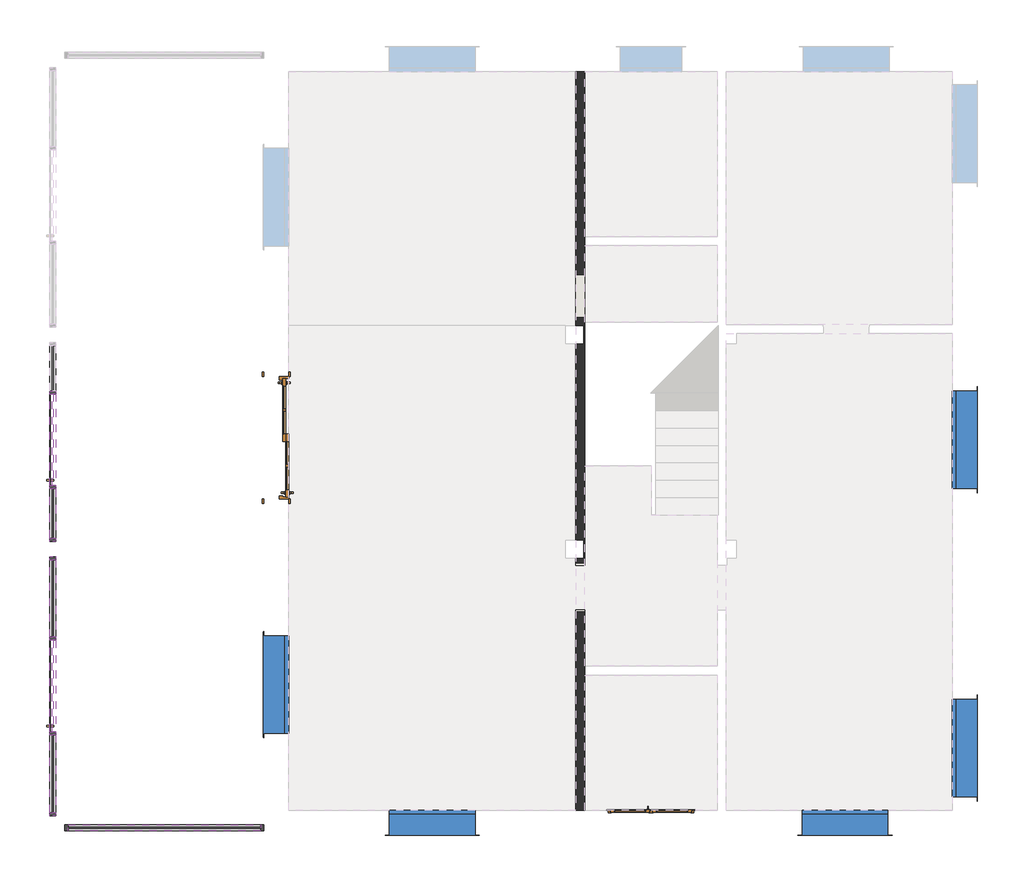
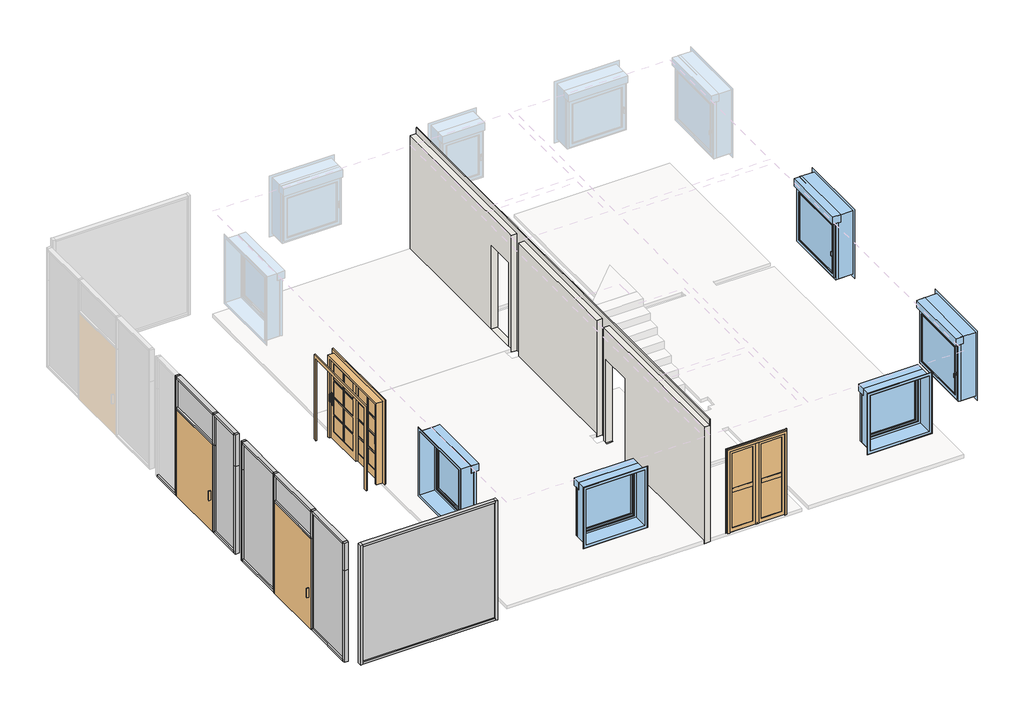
# One storey, part 1 of 2: 29 members, 6 plates, 5 windows, 4 doors, 1 wall.
"""IFC4 building model written with IfcOpenShell, lengths in millimetres."""

from ifc_helpers import new_model, si_unit, origin, place, context, project, spatial, faceted_brep, transform, mapped, element, save
from components import door_a9439ebe, door_1400_x_2100mm_e34f5f79, puerta_de_cristal_abatible_en_muro_cortina_puerta_de_cristal_e47abdd4, puerta_de_cristal_abatible_en_muro_cortina_puerta_de_cristal_2f4fb634, montante_rectangular_montante_rectangular_5_x_10_cm_757a3403, montante_rectangular_montante_rectangular_5_x_10_cm_89af3980, montante_rectangular_montante_rectangular_5_x_10_cm_7540c517, montante_rectangular_montante_rectangular_5_x_10_cm_b6a986cb, montante_rectangular_montante_rectangular_5_x_10_cm_4f417427, montante_rectangular_montante_rectangular_5_x_10_cm_9fe93aea, montante_rectangular_montante_rectangular_5_x_10_cm_a602897c, montante_rectangular_montante_rectangular_5_x_10_cm_7bd22c31, montante_rectangular_montante_rectangular_5_x_10_cm_0642ad4a, montante_rectangular_montante_rectangular_5_x_10_cm_e40062c4, montante_rectangular_montante_rectangular_5_x_10_cm_e94830d5, montante_rectangular_montante_rectangular_5_x_10_cm_3bdb59d8, montante_rectangular_montante_rectangular_5_x_10_cm_b7e3f8f0, montante_rectangular_montante_rectangular_5_x_10_cm_e7dd39f4, montante_rectangular_montante_rectangular_5_x_10_cm_8c623952, montante_rectangular_montante_rectangular_5_x_10_cm_b7725e21, montante_rectangular_montante_rectangular_5_x_10_cm_a45a8891, montante_rectangular_montante_rectangular_5_x_10_cm_be469fed, montante_rectangular_montante_rectangular_5_x_10_cm_99f3dc7d, montante_rectangular_montante_rectangular_5_x_10_cm_4604db76, montante_rectangular_montante_rectangular_5_x_10_cm_c0600e94, montante_rectangular_montante_rectangular_5_x_10_cm_af4c0378, montante_rectangular_montante_rectangular_5_x_10_cm_a9b3deda, panel_de_sistema_acristalado_2e88a5b3, panel_de_sistema_acristalado_907720ef, panel_de_sistema_acristalado_3683847e, panel_de_sistema_acristalado_e934f982, panel_de_sistema_acristalado_778e6e34, panel_de_sistema_acristalado_f75cf846, ventana_1_hoja_ve1_140_x_140_cm_f22eddc7, ventana_1_hoja_ve1_160_x_160_cm_969c779d

model = new_model("IFC4")

# Units and contexts
model_context = context("Model", 3, world=origin())
ifc_project = project(units=[si_unit("LENGTHUNIT", "METRE", prefix="MILLI")], contexts=[model_context])

# Site, building, storey
site = spatial("IfcSite", under=ifc_project)
building = spatial("IfcBuilding", under=site)
storey = spatial("IfcBuildingStorey", under=building, Name="01.AR.PLANTA BAJA ACAB.SUELO", Elevation=200.0)

# Doors
placement = place(None, origin())
door_shape = door_a9439ebe(model_context)
element("IfcDoor", 1, ObjectType="Puerta Balcón - 2 hojas corredizas : 200 x 205 cm - 8 Vidrios repartidos", at=placement, inside=storey, context=model_context, shape_type="MappedRepresentation", body=[
    mapped(door_shape, transform((4180.0, 6911.5177396, 200.0), x_axis=(0.0, 1.0, 0.0), y_axis=(-1.0, 0.0, 0.0), z_axis=(0.0, 0.0, 1.0))),
])
door_1400_x_2100mm_shape = door_1400_x_2100mm_e34f5f79(model_context)
element("IfcDoor", 2, ObjectType="Puerta practicable de entrada, 2 hojas : 1400 x 2100mm", at=placement, inside=storey, context=model_context, shape_type="MappedRepresentation", body=[
    mapped(door_1400_x_2100mm_shape, transform((10315.0, 610.0, 200.0), x_axis=(1.0, 0.0, 0.0), y_axis=(0.0, 1.0, 0.0), z_axis=(0.0, 0.0, 1.0))),
])
puerta_de_cristal_abatible_en_muro_cortina_puerta_de_cristal_shape = puerta_de_cristal_abatible_en_muro_cortina_puerta_de_cristal_e47abdd4(model_context)
element("IfcDoor", 3, ObjectType="Puerta de cristal abatible en muro cortina : Puerta de cristal abatible en muro cortina", at=placement, inside=storey, context=model_context, shape_type="MappedRepresentation", body=[
    mapped(puerta_de_cristal_abatible_en_muro_cortina_puerta_de_cristal_shape, transform((525.0, 6880.0, 200.0), x_axis=(0.0, 1.0, 0.0), y_axis=(-1.0, 0.0, 0.0), z_axis=(0.0, 0.0, 1.0))),
])
puerta_de_cristal_abatible_en_muro_cortina_puerta_de_cristal_2_shape = puerta_de_cristal_abatible_en_muro_cortina_puerta_de_cristal_2f4fb634(model_context)
element("IfcDoor", 4, ObjectType="Puerta de cristal abatible en muro cortina : Puerta de cristal abatible en muro cortina", at=placement, inside=storey, context=model_context, shape_type="MappedRepresentation", body=[
    mapped(puerta_de_cristal_abatible_en_muro_cortina_puerta_de_cristal_2_shape, transform((525.0, 2850.0610844, 200.0), x_axis=(0.0, 1.0, 0.0), y_axis=(-1.0, 0.0, 0.0), z_axis=(0.0, 0.0, 1.0))),
])

# Members
montante_rectangular_montante_rectangular_5_x_10_cm_shape = montante_rectangular_montante_rectangular_5_x_10_cm_757a3403(model_context)
element("IfcMember", 5, ObjectType="Montante rectangular : Montante rectangular - 5 x 10 cm", at=placement, inside=storey, context=model_context, shape_type="MappedRepresentation", body=[
    mapped(montante_rectangular_montante_rectangular_5_x_10_cm_shape, transform((3925.0, 525.0, 3200.0), x_axis=(0.0, 0.0, 1.0), y_axis=(0.0, -1.0, 0.0), z_axis=(1.0, 0.0, 0.0))),
])
montante_rectangular_montante_rectangular_5_x_10_cm_2_shape = montante_rectangular_montante_rectangular_5_x_10_cm_89af3980(model_context)
element("IfcMember", 6, ObjectType="Montante rectangular : Montante rectangular - 5 x 10 cm", at=placement, inside=storey, context=model_context, shape_type="MappedRepresentation", body=[
    mapped(montante_rectangular_montante_rectangular_5_x_10_cm_2_shape, transform((775.0, 525.0, 200.0), x_axis=(0.0, 0.0, -1.0), y_axis=(0.0, -1.0, 0.0), z_axis=(-1.0, 0.0, 0.0))),
])
montante_rectangular_montante_rectangular_5_x_10_cm_3_shape = montante_rectangular_montante_rectangular_5_x_10_cm_7540c517(model_context)
element("IfcMember", 7, ObjectType="Montante rectangular : Montante rectangular - 5 x 10 cm", at=placement, inside=storey, context=model_context, shape_type="MappedRepresentation", body=[
    mapped(montante_rectangular_montante_rectangular_5_x_10_cm_3_shape, transform((725.0, 525.0, 3200.0), x_axis=(-1.0, 0.0, 0.0), y_axis=(0.0, -1.0, 0.0), z_axis=(0.0, 0.0, 1.0))),
])
montante_rectangular_montante_rectangular_5_x_10_cm_4_shape = montante_rectangular_montante_rectangular_5_x_10_cm_b6a986cb(model_context)
element("IfcMember", 8, ObjectType="Montante rectangular : Montante rectangular - 5 x 10 cm", at=placement, inside=storey, context=model_context, shape_type="MappedRepresentation", body=[
    mapped(montante_rectangular_montante_rectangular_5_x_10_cm_4_shape, transform((3975.0, 525.0, 200.0), x_axis=(1.0, 0.0, 0.0), y_axis=(0.0, -1.0, 0.0), z_axis=(0.0, 0.0, -1.0))),
])
montante_rectangular_montante_rectangular_5_x_10_cm_5_shape = montante_rectangular_montante_rectangular_5_x_10_cm_4f417427(model_context)
element("IfcMember", 9, ObjectType="Montante rectangular : Montante rectangular - 5 x 10 cm", at=placement, inside=storey, context=model_context, shape_type="MappedRepresentation", body=[
    mapped(montante_rectangular_montante_rectangular_5_x_10_cm_5_shape, transform((525.0, 7680.0, 200.0), x_axis=(0.0, 0.0, -1.0), y_axis=(1.0, 0.0, 0.0), z_axis=(0.0, -1.0, 0.0))),
])
montante_rectangular_montante_rectangular_5_x_10_cm_6_shape = montante_rectangular_montante_rectangular_5_x_10_cm_9fe93aea(model_context)
element("IfcMember", 10, ObjectType="Montante rectangular : Montante rectangular - 5 x 10 cm", at=placement, inside=storey, context=model_context, shape_type="MappedRepresentation", body=[
    mapped(montante_rectangular_montante_rectangular_5_x_10_cm_6_shape, transform((525.0, 5265.0610844, 200.0), x_axis=(0.0, 0.0, -1.0), y_axis=(1.0, 0.0, 0.0), z_axis=(0.0, -1.0, 0.0))),
])
montante_rectangular_montante_rectangular_5_x_10_cm_7_shape = montante_rectangular_montante_rectangular_5_x_10_cm_a602897c(model_context)
element("IfcMember", 11, ObjectType="Montante rectangular : Montante rectangular - 5 x 10 cm", at=placement, inside=storey, context=model_context, shape_type="MappedRepresentation", body=[
    mapped(montante_rectangular_montante_rectangular_5_x_10_cm_7_shape, transform((525.0, 6080.0, 3200.0), x_axis=(0.0, 0.0, 1.0), y_axis=(1.0, 0.0, 0.0), z_axis=(0.0, 1.0, 0.0))),
])
montante_rectangular_montante_rectangular_5_x_10_cm_8_shape = montante_rectangular_montante_rectangular_5_x_10_cm_7bd22c31(model_context)
element("IfcMember", 12, ObjectType="Montante rectangular : Montante rectangular - 5 x 10 cm", at=placement, inside=storey, context=model_context, shape_type="MappedRepresentation", body=[
    mapped(montante_rectangular_montante_rectangular_5_x_10_cm_8_shape, transform((525.0, 4915.0610844, 3200.0), x_axis=(0.0, 0.0, 1.0), y_axis=(1.0, 0.0, 0.0), z_axis=(0.0, 1.0, 0.0))),
])
montante_rectangular_montante_rectangular_5_x_10_cm_9_shape = montante_rectangular_montante_rectangular_5_x_10_cm_0642ad4a(model_context)
element("IfcMember", 13, ObjectType="Montante rectangular : Montante rectangular - 5 x 10 cm", at=placement, inside=storey, context=model_context, shape_type="MappedRepresentation", body=[
    mapped(montante_rectangular_montante_rectangular_5_x_10_cm_9_shape, transform((525.0, 3650.0610844, 200.0), x_axis=(0.0, 0.0, -1.0), y_axis=(1.0, 0.0, 0.0), z_axis=(0.0, -1.0, 0.0))),
])
montante_rectangular_montante_rectangular_5_x_10_cm_10_shape = montante_rectangular_montante_rectangular_5_x_10_cm_e40062c4(model_context)
element("IfcMember", 14, ObjectType="Montante rectangular : Montante rectangular - 5 x 10 cm", at=placement, inside=storey, context=model_context, shape_type="MappedRepresentation", body=[
    mapped(montante_rectangular_montante_rectangular_5_x_10_cm_10_shape, transform((525.0, 775.0, 200.0), x_axis=(0.0, 0.0, -1.0), y_axis=(1.0, 0.0, 0.0), z_axis=(0.0, -1.0, 0.0))),
])
montante_rectangular_montante_rectangular_5_x_10_cm_11_shape = montante_rectangular_montante_rectangular_5_x_10_cm_e94830d5(model_context)
element("IfcMember", 15, ObjectType="Montante rectangular : Montante rectangular - 5 x 10 cm", at=placement, inside=storey, context=model_context, shape_type="MappedRepresentation", body=[
    mapped(montante_rectangular_montante_rectangular_5_x_10_cm_11_shape, transform((525.0, 2050.0610844, 3200.0), x_axis=(0.0, 0.0, 1.0), y_axis=(1.0, 0.0, 0.0), z_axis=(0.0, 1.0, 0.0))),
])
montante_rectangular_montante_rectangular_5_x_10_cm_12_shape = montante_rectangular_montante_rectangular_5_x_10_cm_3bdb59d8(model_context)
element("IfcMember", 16, ObjectType="Montante rectangular : Montante rectangular - 5 x 10 cm", at=placement, inside=storey, context=model_context, shape_type="MappedRepresentation", body=[
    mapped(montante_rectangular_montante_rectangular_5_x_10_cm_12_shape, transform((525.0, 7630.0, 3200.0), x_axis=(0.0, 0.0, 1.0), y_axis=(1.0, 0.0, 0.0), z_axis=(0.0, 1.0, 0.0))),
])
element("IfcMember", 17, ObjectType="Montante rectangular : Montante rectangular - 5 x 10 cm", at=placement, inside=storey, context=model_context, shape_type="MappedRepresentation", body=[
    mapped(montante_rectangular_montante_rectangular_5_x_10_cm_12_shape, transform((525.0, 3600.0610844, 3200.0), x_axis=(0.0, 0.0, 1.0), y_axis=(1.0, 0.0, 0.0), z_axis=(0.0, 1.0, 0.0))),
])
montante_rectangular_montante_rectangular_5_x_10_cm_13_shape = montante_rectangular_montante_rectangular_5_x_10_cm_b7e3f8f0(model_context)
element("IfcMember", 18, ObjectType="Montante rectangular : Montante rectangular - 5 x 10 cm", at=placement, inside=storey, context=model_context, shape_type="MappedRepresentation", body=[
    mapped(montante_rectangular_montante_rectangular_5_x_10_cm_13_shape, transform((525.0, 5215.0610844, 3200.0), x_axis=(0.0, -1.0, 0.0), y_axis=(1.0, 0.0, 0.0), z_axis=(0.0, 0.0, 1.0))),
])
montante_rectangular_montante_rectangular_5_x_10_cm_14_shape = montante_rectangular_montante_rectangular_5_x_10_cm_e7dd39f4(model_context)
element("IfcMember", 19, ObjectType="Montante rectangular : Montante rectangular - 5 x 10 cm", at=placement, inside=storey, context=model_context, shape_type="MappedRepresentation", body=[
    mapped(montante_rectangular_montante_rectangular_5_x_10_cm_14_shape, transform((525.0, 5215.0610844, 2400.0), x_axis=(0.0, -1.0, 0.0), y_axis=(1.0, 0.0, 0.0), z_axis=(0.0, 0.0, 1.0))),
])
montante_rectangular_montante_rectangular_5_x_10_cm_15_shape = montante_rectangular_montante_rectangular_5_x_10_cm_8c623952(model_context)
element("IfcMember", 20, ObjectType="Montante rectangular : Montante rectangular - 5 x 10 cm", at=placement, inside=storey, context=model_context, shape_type="MappedRepresentation", body=[
    mapped(montante_rectangular_montante_rectangular_5_x_10_cm_15_shape, transform((525.0, 725.0, 3200.0), x_axis=(0.0, -1.0, 0.0), y_axis=(1.0, 0.0, 0.0), z_axis=(0.0, 0.0, 1.0))),
])
montante_rectangular_montante_rectangular_5_x_10_cm_16_shape = montante_rectangular_montante_rectangular_5_x_10_cm_b7725e21(model_context)
element("IfcMember", 21, ObjectType="Montante rectangular : Montante rectangular - 5 x 10 cm", at=placement, inside=storey, context=model_context, shape_type="MappedRepresentation", body=[
    mapped(montante_rectangular_montante_rectangular_5_x_10_cm_16_shape, transform((525.0, 4965.0610844, 200.0), x_axis=(0.0, 1.0, 0.0), y_axis=(1.0, 0.0, 0.0), z_axis=(0.0, 0.0, -1.0))),
])
montante_rectangular_montante_rectangular_5_x_10_cm_17_shape = montante_rectangular_montante_rectangular_5_x_10_cm_a45a8891(model_context)
element("IfcMember", 22, ObjectType="Montante rectangular : Montante rectangular - 5 x 10 cm", at=placement, inside=storey, context=model_context, shape_type="MappedRepresentation", body=[
    mapped(montante_rectangular_montante_rectangular_5_x_10_cm_17_shape, transform((525.0, 725.0, 2500.0), x_axis=(0.0, -1.0, 0.0), y_axis=(1.0, 0.0, 0.0), z_axis=(0.0, 0.0, 1.0))),
])
montante_rectangular_montante_rectangular_5_x_10_cm_18_shape = montante_rectangular_montante_rectangular_5_x_10_cm_be469fed(model_context)
element("IfcMember", 23, ObjectType="Montante rectangular : Montante rectangular - 5 x 10 cm", at=placement, inside=storey, context=model_context, shape_type="MappedRepresentation", body=[
    mapped(montante_rectangular_montante_rectangular_5_x_10_cm_18_shape, transform((525.0, 4965.0610844, 2500.0), x_axis=(0.0, 1.0, 0.0), y_axis=(1.0, 0.0, 0.0), z_axis=(0.0, 0.0, -1.0))),
])
montante_rectangular_montante_rectangular_5_x_10_cm_19_shape = montante_rectangular_montante_rectangular_5_x_10_cm_99f3dc7d(model_context)
element("IfcMember", 24, ObjectType="Montante rectangular : Montante rectangular - 5 x 10 cm", at=placement, inside=storey, context=model_context, shape_type="MappedRepresentation", body=[
    mapped(montante_rectangular_montante_rectangular_5_x_10_cm_19_shape, transform((525.0, 7655.0, 200.0), x_axis=(0.0, 1.0, 0.0), y_axis=(1.0, 0.0, 0.0), z_axis=(0.0, 0.0, -1.0))),
])
element("IfcMember", 25, ObjectType="Montante rectangular : Montante rectangular - 5 x 10 cm", at=placement, inside=storey, context=model_context, shape_type="MappedRepresentation", body=[
    mapped(montante_rectangular_montante_rectangular_5_x_10_cm_19_shape, transform((525.0, 6105.0, 200.0), x_axis=(0.0, 1.0, 0.0), y_axis=(1.0, 0.0, 0.0), z_axis=(0.0, 0.0, -1.0))),
])
montante_rectangular_montante_rectangular_5_x_10_cm_20_shape = montante_rectangular_montante_rectangular_5_x_10_cm_4604db76(model_context)
element("IfcMember", 26, ObjectType="Montante rectangular : Montante rectangular - 5 x 10 cm", at=placement, inside=storey, context=model_context, shape_type="MappedRepresentation", body=[
    mapped(montante_rectangular_montante_rectangular_5_x_10_cm_20_shape, transform((525.0, 7655.0, 2400.0), x_axis=(0.0, 1.0, 0.0), y_axis=(1.0, 0.0, 0.0), z_axis=(0.0, 0.0, -1.0))),
])
element("IfcMember", 27, ObjectType="Montante rectangular : Montante rectangular - 5 x 10 cm", at=placement, inside=storey, context=model_context, shape_type="MappedRepresentation", body=[
    mapped(montante_rectangular_montante_rectangular_5_x_10_cm_20_shape, transform((525.0, 6105.0, 2400.0), x_axis=(0.0, 1.0, 0.0), y_axis=(1.0, 0.0, 0.0), z_axis=(0.0, 0.0, -1.0))),
])
montante_rectangular_montante_rectangular_5_x_10_cm_21_shape = montante_rectangular_montante_rectangular_5_x_10_cm_c0600e94(model_context)
element("IfcMember", 28, ObjectType="Montante rectangular : Montante rectangular - 5 x 10 cm", at=placement, inside=storey, context=model_context, shape_type="MappedRepresentation", body=[
    mapped(montante_rectangular_montante_rectangular_5_x_10_cm_21_shape, transform((525.0, 7630.0, 2400.0), x_axis=(0.0, 0.0, 1.0), y_axis=(1.0, 0.0, 0.0), z_axis=(0.0, 1.0, 0.0))),
])
element("IfcMember", 29, ObjectType="Montante rectangular : Montante rectangular - 5 x 10 cm", at=placement, inside=storey, context=model_context, shape_type="MappedRepresentation", body=[
    mapped(montante_rectangular_montante_rectangular_5_x_10_cm_21_shape, transform((525.0, 3600.0610844, 2500.0), x_axis=(0.0, 0.0, 1.0), y_axis=(1.0, 0.0, 0.0), z_axis=(0.0, 1.0, 0.0))),
])
montante_rectangular_montante_rectangular_5_x_10_cm_22_shape = montante_rectangular_montante_rectangular_5_x_10_cm_af4c0378(model_context)
element("IfcMember", 30, ObjectType="Montante rectangular : Montante rectangular - 5 x 10 cm", at=placement, inside=storey, context=model_context, shape_type="MappedRepresentation", body=[
    mapped(montante_rectangular_montante_rectangular_5_x_10_cm_22_shape, transform((525.0, 3625.0610844, 200.0), x_axis=(0.0, 1.0, 0.0), y_axis=(1.0, 0.0, 0.0), z_axis=(0.0, 0.0, -1.0))),
])
element("IfcMember", 31, ObjectType="Montante rectangular : Montante rectangular - 5 x 10 cm", at=placement, inside=storey, context=model_context, shape_type="MappedRepresentation", body=[
    mapped(montante_rectangular_montante_rectangular_5_x_10_cm_22_shape, transform((525.0, 2075.0610844, 200.0), x_axis=(0.0, 1.0, 0.0), y_axis=(1.0, 0.0, 0.0), z_axis=(0.0, 0.0, -1.0))),
])
montante_rectangular_montante_rectangular_5_x_10_cm_23_shape = montante_rectangular_montante_rectangular_5_x_10_cm_a9b3deda(model_context)
element("IfcMember", 32, ObjectType="Montante rectangular : Montante rectangular - 5 x 10 cm", at=placement, inside=storey, context=model_context, shape_type="MappedRepresentation", body=[
    mapped(montante_rectangular_montante_rectangular_5_x_10_cm_23_shape, transform((525.0, 3625.0610844, 2500.0), x_axis=(0.0, 1.0, 0.0), y_axis=(1.0, 0.0, 0.0), z_axis=(0.0, 0.0, -1.0))),
])
element("IfcMember", 33, ObjectType="Montante rectangular : Montante rectangular - 5 x 10 cm", at=placement, inside=storey, context=model_context, shape_type="MappedRepresentation", body=[
    mapped(montante_rectangular_montante_rectangular_5_x_10_cm_23_shape, transform((525.0, 2075.0610844, 2500.0), x_axis=(0.0, 1.0, 0.0), y_axis=(1.0, 0.0, 0.0), z_axis=(0.0, 0.0, -1.0))),
])

# Plates
panel_de_sistema_acristalado_shape = panel_de_sistema_acristalado_2e88a5b3(model_context)
element("IfcPlate", 34, ObjectType="Panel de sistema : Acristalado", at=placement, inside=storey, context=model_context, shape_type="MappedRepresentation", body=[
    mapped(panel_de_sistema_acristalado_shape, transform((2350.0, 525.0, 250.0), x_axis=(1.0, 0.0, 0.0), y_axis=(0.0, 1.0, 0.0), z_axis=(0.0, 0.0, 1.0))),
])
panel_de_sistema_acristalado_2_shape = panel_de_sistema_acristalado_907720ef(model_context)
element("IfcPlate", 35, ObjectType="Panel de sistema : Acristalado", at=placement, inside=storey, context=model_context, shape_type="MappedRepresentation", body=[
    mapped(panel_de_sistema_acristalado_2_shape, transform((525.0, 5672.5305422, 250.0), x_axis=(0.0, 1.0, 0.0), y_axis=(-1.0, 0.0, 0.0), z_axis=(0.0, 0.0, 1.0))),
])
panel_de_sistema_acristalado_3_shape = panel_de_sistema_acristalado_3683847e(model_context)
element("IfcPlate", 36, ObjectType="Panel de sistema : Acristalado", at=placement, inside=storey, context=model_context, shape_type="MappedRepresentation", body=[
    mapped(panel_de_sistema_acristalado_3_shape, transform((525.0, 1412.5305422, 250.0), x_axis=(0.0, 1.0, 0.0), y_axis=(-1.0, 0.0, 0.0), z_axis=(0.0, 0.0, 1.0))),
])
panel_de_sistema_acristalado_4_shape = panel_de_sistema_acristalado_e934f982(model_context)
element("IfcPlate", 37, ObjectType="Panel de sistema : Acristalado", at=placement, inside=storey, context=model_context, shape_type="MappedRepresentation", body=[
    mapped(panel_de_sistema_acristalado_4_shape, transform((525.0, 4282.5610844, 250.0), x_axis=(0.0, 1.0, 0.0), y_axis=(-1.0, 0.0, 0.0), z_axis=(0.0, 0.0, 1.0))),
])
panel_de_sistema_acristalado_5_shape = panel_de_sistema_acristalado_778e6e34(model_context)
element("IfcPlate", 38, ObjectType="Panel de sistema : Acristalado", at=placement, inside=storey, context=model_context, shape_type="MappedRepresentation", body=[
    mapped(panel_de_sistema_acristalado_5_shape, transform((525.0, 2850.0610844, 2525.0), x_axis=(0.0, 1.0, 0.0), y_axis=(-1.0, 0.0, 0.0), z_axis=(0.0, 0.0, 1.0))),
])
panel_de_sistema_acristalado_6_shape = panel_de_sistema_acristalado_f75cf846(model_context)
element("IfcPlate", 39, ObjectType="Panel de sistema : Acristalado", at=placement, inside=storey, context=model_context, shape_type="MappedRepresentation", body=[
    mapped(panel_de_sistema_acristalado_6_shape, transform((525.0, 6880.0, 2425.0), x_axis=(0.0, 1.0, 0.0), y_axis=(-1.0, 0.0, 0.0), z_axis=(0.0, 0.0, 1.0))),
])

# Wall
element("IfcWall", 40, ObjectType="Por defecto - 15 cm", at=placement, inside=storey, context=model_context, shape_type="Brep", body=[
    faceted_brep([(9080.0, 815.0, 3050.0), (9080.0, 4940.0610844, 3050.0), (9080.0, 4940.0610844, 200.0), (9080.0, 4940.0610844, 120.0), (9080.0, 4825.0, 120.0), (9080.0, 4825.0, 200.0), (9080.0, 4860.0, 200.0), (9080.0, 4860.0, 2300.0), (9080.0, 4060.0, 2300.0), (9080.0, 4060.0, 200.0), (9080.0, 4095.0, 200.0), (9080.0, 4095.0, 120.0), (9080.0, 815.0, 120.0), (9080.0, 815.0, 200.0), (9080.0, 5240.0610844, 3050.0), (9080.0, 8450.0, 3050.0), (9080.0, 8450.0, 200.0), (9080.0, 8450.0, 120.0), (9080.0, 5240.0610844, 120.0), (9080.0, 5240.0610844, 200.0), (9080.0, 8750.0, 120.0), (9080.0, 8750.0, 3050.0), (9080.0, 12906.5177396, 3050.0), (9080.0, 12906.5177396, 120.0), (9080.0, 8880.0, 2300.0), (9080.0, 8880.0, 200.0), (9080.0, 9580.0, 200.0), (9080.0, 9580.0, 2300.0), (9230.0, 12906.5177396, 3200.0), (9230.0, 10205.0, 3200.0), (9230.0, 10055.0, 3200.0), (9230.0, 8805.0, 3200.0), (9230.0, 8655.0, 3200.0), (9230.0, 6600.0, 3200.0), (9230.0, 6450.0, 3200.0), (9230.0, 3175.0, 3200.0), (9230.0, 3025.0, 3200.0), (9230.0, 815.0, 3200.0), (9230.0, 815.0, 200.0), (9230.0, 815.0, 120.0), (9230.0, 3025.0, 120.0), (9230.0, 3175.0, 120.0), (9230.0, 4095.0, 120.0), (9230.0, 4095.0, 200.0), (9230.0, 4060.0, 200.0), (9230.0, 4060.0, 2300.0), (9230.0, 4860.0, 2300.0), (9230.0, 4860.0, 200.0), (9230.0, 4825.0, 200.0), (9230.0, 4825.0, 120.0), (9230.0, 6450.0, 120.0), (9230.0, 6600.0, 120.0), (9230.0, 8655.0, 120.0), (9230.0, 8805.0, 120.0), (9230.0, 10055.0, 120.0), (9230.0, 10205.0, 120.0), (9230.0, 12906.5177396, 120.0), (9230.0, 8880.0, 200.0), (9230.0, 8880.0, 2300.0), (9230.0, 9580.0, 2300.0), (9230.0, 9580.0, 200.0), (9215.0, 4940.0610844, 120.0), (9215.0, 5240.0610844, 120.0), (9215.0, 8450.0, 120.0), (9215.0, 8750.0, 120.0), (9215.0, 12906.5177396, 3200.0), (9215.0, 815.0, 3200.0), (9215.0, 815.0, 3050.0), (9215.0, 12906.5177396, 3050.0), (9215.0, 8750.0, 3050.0), (9215.0, 8450.0, 3050.0), (9215.0, 5240.0610844, 3050.0), (9215.0, 4940.0610844, 3050.0)], [[[0, 1, 2, 3, 4, 5, 6, 7, 8, 9, 10, 11, 12, 13]], [[14, 15, 16, 17, 18, 19]], [[20, 21, 22, 23], [24, 25, 26, 27]], [[28, 29, 30, 31, 32, 33, 34, 35, 36, 37, 38, 39, 40, 41, 42, 43, 44, 45, 46, 47, 48, 49, 50, 51, 52, 53, 54, 55, 56], [57, 58, 59, 60]], [[23, 56, 55, 54, 53, 52, 51, 50, 49, 4, 3, 61, 62, 18, 17, 63, 64, 20]], [[39, 12, 11, 42, 41, 40]], [[37, 36, 35, 34, 33, 32, 31, 30, 29, 28, 65, 66]], [[12, 39, 38, 37, 66, 67, 0, 13]], [[28, 56, 23, 22, 68, 65]], [[20, 64, 69, 21]], [[63, 17, 16, 15, 70]], [[64, 63, 70, 71, 62, 61, 72, 67, 66, 65, 68, 69]], [[18, 62, 71, 14, 19]], [[61, 3, 2, 1, 72]], [[1, 0, 67, 72]], [[71, 70, 15, 14]], [[22, 21, 69, 68]], [[6, 47, 46, 7]], [[7, 46, 45, 8]], [[44, 9, 8, 45]], [[47, 6, 5, 48]], [[9, 44, 43, 10]], [[11, 10, 43, 42]], [[5, 4, 49, 48]], [[58, 57, 25, 24]], [[59, 58, 24, 27]], [[60, 59, 27, 26]], [[57, 60, 26, 25]]]),
])

# Windows
ventana_1_hoja_ve1_140_x_140_cm_shape = ventana_1_hoja_ve1_140_x_140_cm_f22eddc7(model_context)
element("IfcWindow", 41, ObjectType="Ventana 1 hoja : VE1_140 x 140 cm", at=placement, inside=storey, context=model_context, shape_type="MappedRepresentation", body=[
    mapped(ventana_1_hoja_ve1_140_x_140_cm_shape, transform((6735.0, 610.0, 600.0), x_axis=(-1.0, 0.0, 0.0), y_axis=(0.0, -1.0, 0.0), z_axis=(0.0, 0.0, 1.0))),
])
element("IfcWindow", 42, ObjectType="Ventana 1 hoja : VE1_140 x 140 cm", at=placement, inside=storey, context=model_context, shape_type="MappedRepresentation", body=[
    mapped(ventana_1_hoja_ve1_140_x_140_cm_shape, transform((13490.0, 610.0, 600.0), x_axis=(-1.0, 0.0, 0.0), y_axis=(0.0, -1.0, 0.0), z_axis=(0.0, 0.0, 1.0))),
])
ventana_1_hoja_ve1_160_x_160_cm_shape = ventana_1_hoja_ve1_160_x_160_cm_969c779d(model_context)
element("IfcWindow", 43, ObjectType="Ventana 1 hoja : VE1_160 x 160 cm", at=placement, inside=storey, context=model_context, shape_type="MappedRepresentation", body=[
    mapped(ventana_1_hoja_ve1_160_x_160_cm_shape, transform((15450.0, 1830.0, 600.0), x_axis=(0.0, -1.0, 0.0), y_axis=(1.0, 0.0, 0.0), z_axis=(0.0, 0.0, 1.0))),
])
element("IfcWindow", 44, ObjectType="Ventana 1 hoja : VE1_160 x 160 cm", at=placement, inside=storey, context=model_context, shape_type="MappedRepresentation", body=[
    mapped(ventana_1_hoja_ve1_160_x_160_cm_shape, transform((4180.0, 2870.0, 600.0), x_axis=(0.0, 1.0, 0.0), y_axis=(-1.0, 0.0, 0.0), z_axis=(0.0, 0.0, 1.0))),
])
element("IfcWindow", 45, ObjectType="Ventana 1 hoja : VE1_160 x 160 cm", at=placement, inside=storey, context=model_context, shape_type="MappedRepresentation", body=[
    mapped(ventana_1_hoja_ve1_160_x_160_cm_shape, transform((15450.0, 6880.0610844, 600.0), x_axis=(0.0, -1.0, 0.0), y_axis=(1.0, 0.0, 0.0), z_axis=(0.0, 0.0, 1.0))),
])

save(model, "model.ifc")
